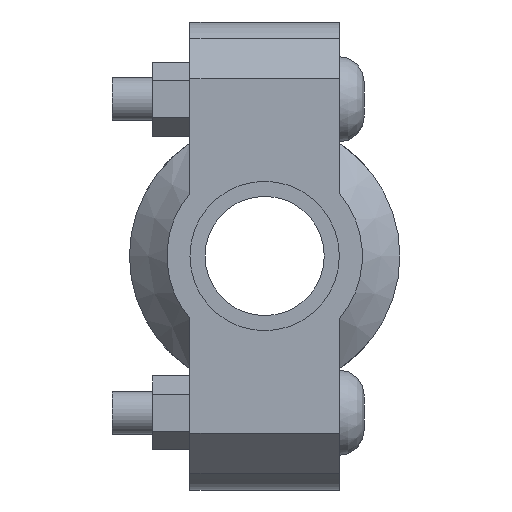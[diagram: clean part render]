
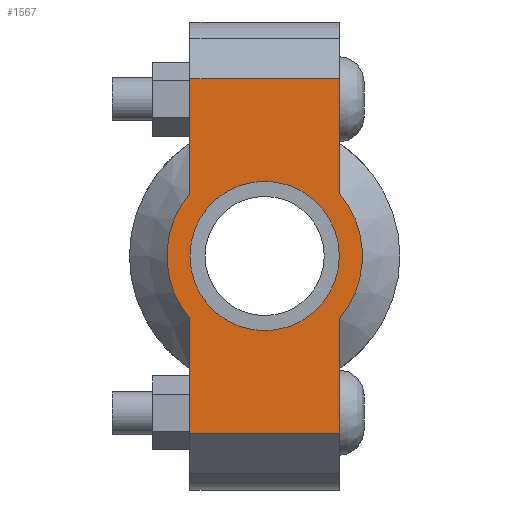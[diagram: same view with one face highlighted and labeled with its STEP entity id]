
A CAD part, left-side view. The second image highlights one B-rep face of the part: STEP entity #1567.
In plain terms, the highlighted planar face has unit normal (-1, 0, 0) as drawn and (0, 0, 1) by its records, which use the part's own axes.
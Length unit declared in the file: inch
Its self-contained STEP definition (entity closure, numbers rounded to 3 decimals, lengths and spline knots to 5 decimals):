
#178=LINE('',#2693,#273);
#193=LINE('',#2752,#288);
#201=LINE('',#2782,#296);
#203=LINE('',#2785,#298);
#204=LINE('',#2790,#299);
#205=LINE('',#2791,#300);
#273=VECTOR('',#2171,0.3937);
#288=VECTOR('',#2206,0.3937);
#296=VECTOR('',#2226,0.3937);
#298=VECTOR('',#2230,0.3937);
#299=VECTOR('',#2235,0.3937);
#300=VECTOR('',#2236,0.3937);
#360=FACE_BOUND('',#519,.T.);
#420=FACE_OUTER_BOUND('',#518,.T.);
#518=EDGE_LOOP('',(#1262,#1263,#1264,#1265,#1266,#1267,#1268,#1269));
#519=EDGE_LOOP('',(#1270));
#624=CIRCLE('',#1830,0.86);
#625=CIRCLE('',#1831,0.86);
#626=CIRCLE('',#1832,0.6575);
#733=VERTEX_POINT('',#2690);
#734=VERTEX_POINT('',#2692);
#755=VERTEX_POINT('',#2747);
#756=VERTEX_POINT('',#2751);
#765=VERTEX_POINT('',#2777);
#766=VERTEX_POINT('',#2781);
#767=VERTEX_POINT('',#2787);
#768=VERTEX_POINT('',#2789);
#769=VERTEX_POINT('',#2793);
#903=EDGE_CURVE('',#734,#733,#178,.T.);
#928=EDGE_CURVE('',#756,#755,#193,.T.);
#941=EDGE_CURVE('',#766,#765,#201,.T.);
#943=EDGE_CURVE('',#766,#733,#203,.T.);
#944=EDGE_CURVE('',#765,#767,#624,.T.);
#945=EDGE_CURVE('',#767,#768,#204,.T.);
#946=EDGE_CURVE('',#756,#768,#205,.T.);
#947=EDGE_CURVE('',#755,#734,#625,.T.);
#948=EDGE_CURVE('',#769,#769,#626,.T.);
#1262=ORIENTED_EDGE('',*,*,#943,.F.);
#1263=ORIENTED_EDGE('',*,*,#941,.T.);
#1264=ORIENTED_EDGE('',*,*,#944,.T.);
#1265=ORIENTED_EDGE('',*,*,#945,.T.);
#1266=ORIENTED_EDGE('',*,*,#946,.F.);
#1267=ORIENTED_EDGE('',*,*,#928,.T.);
#1268=ORIENTED_EDGE('',*,*,#947,.T.);
#1269=ORIENTED_EDGE('',*,*,#903,.T.);
#1270=ORIENTED_EDGE('',*,*,#948,.T.);
#1419=PLANE('',#1829);
#1567=ADVANCED_FACE('',(#420,#360),#1419,.T.);
#1829=AXIS2_PLACEMENT_3D('',#2786,#2231,#2232);
#1830=AXIS2_PLACEMENT_3D('',#2788,#2233,#2234);
#1831=AXIS2_PLACEMENT_3D('',#2792,#2237,#2238);
#1832=AXIS2_PLACEMENT_3D('',#2794,#2239,#2240);
#2171=DIRECTION('',(1.,0.,0.));
#2206=DIRECTION('',(1.,0.,0.));
#2226=DIRECTION('',(-1.,0.,0.));
#2230=DIRECTION('',(0.,-1.,0.));
#2231=DIRECTION('center_axis',(0.,0.,1.));
#2232=DIRECTION('ref_axis',(-1.,0.,0.));
#2233=DIRECTION('center_axis',(0.,0.,1.));
#2234=DIRECTION('ref_axis',(1.,0.,0.));
#2235=DIRECTION('',(-1.,0.,0.));
#2236=DIRECTION('',(0.,1.,0.));
#2237=DIRECTION('center_axis',(0.,0.,1.));
#2238=DIRECTION('ref_axis',(1.,0.,0.));
#2239=DIRECTION('center_axis',(0.,0.,-1.));
#2240=DIRECTION('ref_axis',(1.,0.,0.));
#2690=CARTESIAN_POINT('',(1.56,-0.6575,0.875));
#2692=CARTESIAN_POINT('',(0.55434,-0.6575,0.875));
#2693=CARTESIAN_POINT('',(-2.06,-0.6575,0.875));
#2747=CARTESIAN_POINT('',(-0.55434,-0.6575,0.875));
#2751=CARTESIAN_POINT('',(-1.56,-0.6575,0.875));
#2752=CARTESIAN_POINT('',(-2.06,-0.6575,0.875));
#2777=CARTESIAN_POINT('',(0.55434,0.6575,0.875));
#2781=CARTESIAN_POINT('',(1.56,0.6575,0.875));
#2782=CARTESIAN_POINT('',(2.06,0.6575,0.875));
#2785=CARTESIAN_POINT('',(1.56,-0.32875,0.875));
#2786=CARTESIAN_POINT('Origin',(0.,0.,
0.875));
#2787=CARTESIAN_POINT('',(-0.55434,0.6575,0.875));
#2788=CARTESIAN_POINT('Origin',(0.,0.,0.875));
#2789=CARTESIAN_POINT('',(-1.56,0.6575,0.875));
#2790=CARTESIAN_POINT('',(2.06,0.6575,0.875));
#2791=CARTESIAN_POINT('',(-1.56,0.32875,0.875));
#2792=CARTESIAN_POINT('Origin',(0.,0.,0.875));
#2793=CARTESIAN_POINT('',(-0.6575,0.,0.875));
#2794=CARTESIAN_POINT('Origin',(0.,0.,0.875));
